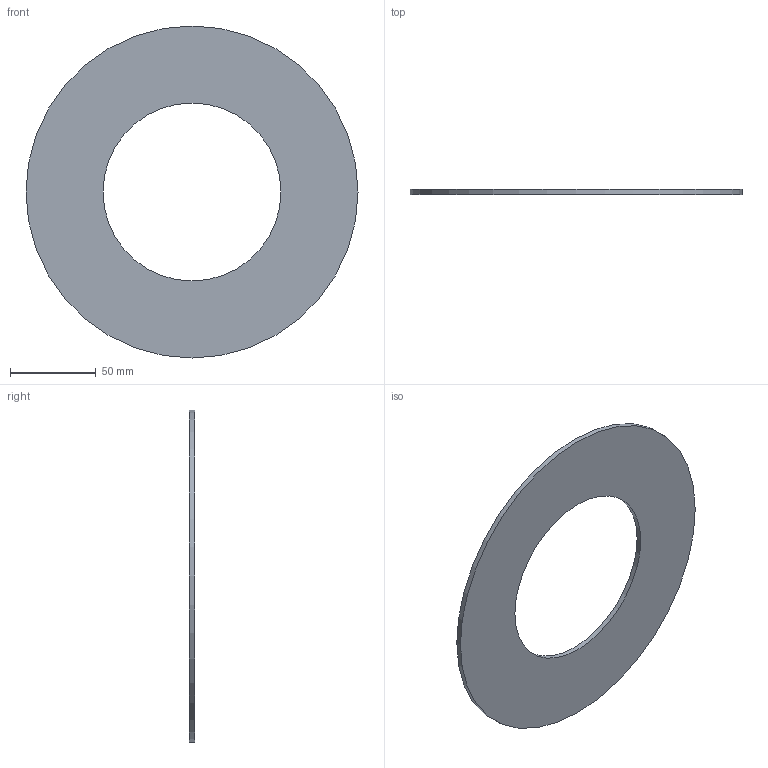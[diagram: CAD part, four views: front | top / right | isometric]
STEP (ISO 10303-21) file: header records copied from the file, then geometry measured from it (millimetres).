
FILE_DESCRIPTION(/* description */ ('Unknown'),/* implementation_level */ '2;1');
FILE_NAME(/* name */ 'GUA.140H',/* time_stamp */ '2021-04-01T15:03:52+02:00',/* author */ ('Unknown'),/* organization */ ('Unknown'),/* preprocessor_version */ 'ST-DEVELOPER v16.7',/* originating_system */ 'Solid Edge',/* authorisation */ 'Unknown');
FILE_SCHEMA (('AUTOMOTIVE_DESIGN {1 0 10303 214 3 1 1}'));
Length unit declared in the file: millimetre
Products named in the file (1): GUA.140H
Bounding box: 194 x 3 x 194 mm (x, y, z)
Volume: 63193.1 mm3; surface area: 44937.3 mm2
Topology: 1 solids, 1 shells, 4 faces, 6 edges, 4 vertices
Faces by surface type: cylinder 2, plane 2
Full cylindrical faces by diameter (mm): 104 x1, 194 x1
Entity records: 118 total; most frequent: DIRECTION 18, CARTESIAN_POINT 13, AXIS2_PLACEMENT_3D 9, ORIENTED_EDGE 8, EDGE_LOOP 8, FACE_BOUND 8, EDGE_CURVE 4, VERTEX_POINT 4
